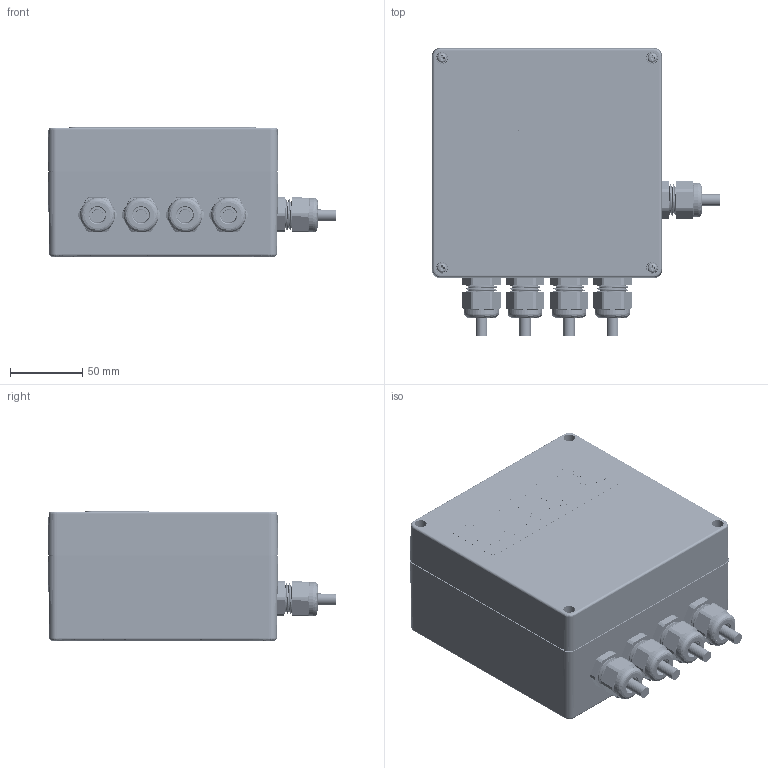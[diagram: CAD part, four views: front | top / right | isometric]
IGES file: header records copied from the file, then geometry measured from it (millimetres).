
Start section: SolidWorks IGES file using analytic representation for surfaces
Global section: file name: C:\0_Work\SolidWorks\HI 6010 Series\HI6010IT-PC1.IGS; native system: SolidWorks 2020; preprocessor: SolidWorks 2020; author: vach01; date: 210607.171650; units: inch
Bounding box: 199.96 x 199.86 x 89.53 mm (x, y, z)
Surface area: 403314.7 mm2 (no closed solid volume)
Topology: 0 solids, 0 shells, 6994 faces, 75756 edges, 75726 vertices
Faces by surface type: bspline 5094, revolution 1900
